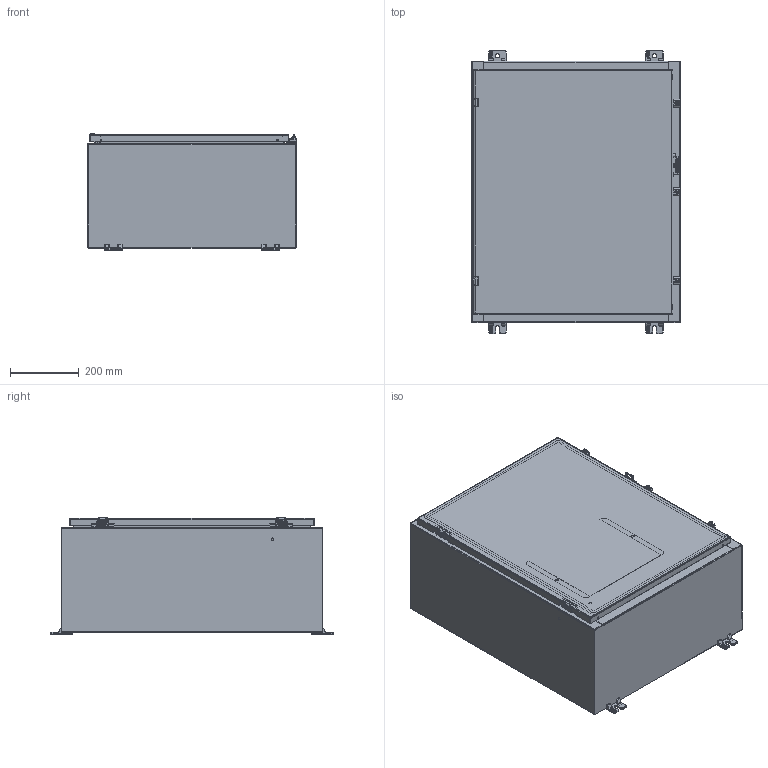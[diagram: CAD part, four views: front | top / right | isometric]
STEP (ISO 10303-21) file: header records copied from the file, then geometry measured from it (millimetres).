
FILE_DESCRIPTION((''),'2;1');
FILE_NAME('MODEL-309_ASM','2022-12-21T12:52:04',('Tony.Gonzales'),('SAGINAW CONTROL & ENGINEERING'),'CREO PARAMETRIC BY PTC INC, 2021284','CREO PARAMETRIC BY PTC INC, 2021284','');
FILE_SCHEMA(('AUTOMOTIVE_DESIGN { 1 0 10303 214 1 1 1 1 }'));
Length unit declared in the file: inch
Products named in the file (35): MODEL-309-BDY; MODEL-309-TP; MODEL-309-BTM; MODEL-309-DR; 100837; 100882; 111267; MODEL-309-DOOR-GASKET; 126391; 126391_ASM; 126393; 102483; 101226; 101376; 102140; 115117; MODEL-309-DOOR-ASSY_ASM; 128630; 100059; 128630_ASM; 100921; 128631; 128631_ASM; 101653; 121452; 120132_BASE; 120132_CLAMP; 120132_SCREW; 120132_SPRING; 120132_ASM; 120133; SUBPANEL; 100904; SUBPANEL-SUBASSEMBLY_ASM; MODEL-309_ASM
Assembly tree (67 placements, depth 4):
  MODEL-309_ASM
    MODEL-309-BDY
    MODEL-309-TP
    MODEL-309-BTM
    MODEL-309-DOOR-ASSY_ASM
      MODEL-309-DR
      100837  x3
      100882  x2
      111267
      MODEL-309-DOOR-GASKET
      126391_ASM  x2
        126391
      126393  x2
      102483  x7
      101226  x2
      101376  x2
      102140  x2
      115117
    128630_ASM  x2
      128630
      100059
    100921  x4
    128631_ASM  x2
      128631
      100059
    100837
    101653  x4
    121452
    120132_ASM  x3
      120132_BASE
      120132_CLAMP
      120132_SCREW
      120132_SPRING
    100882  x4
    120133
    SUBPANEL-SUBASSEMBLY_ASM
      SUBPANEL
      100904  x4
Bounding box: 609.6 x 825.5 x 338.91 mm (x, y, z)
Volume: 5434822.9 mm3; surface area: 4990859.4 mm2
Topology: 70 solids, 70 shells, 5326 faces, 13755 edges, 8663 vertices
Faces by surface type: plane 1964, cylinder 1410, bspline 1153, torus 542, cone 146, sphere 111
Entity records: 117499 total; most frequent: CARTESIAN_POINT 37046, ORIENTED_EDGE 11966, DIRECTION 11462, PRESENTATION_STYLE_ASSIGNMENT 6116, STYLED_ITEM 6116, CURVE_STYLE 5983, EDGE_CURVE 5983, AXIS2_PLACEMENT_3D 4230
